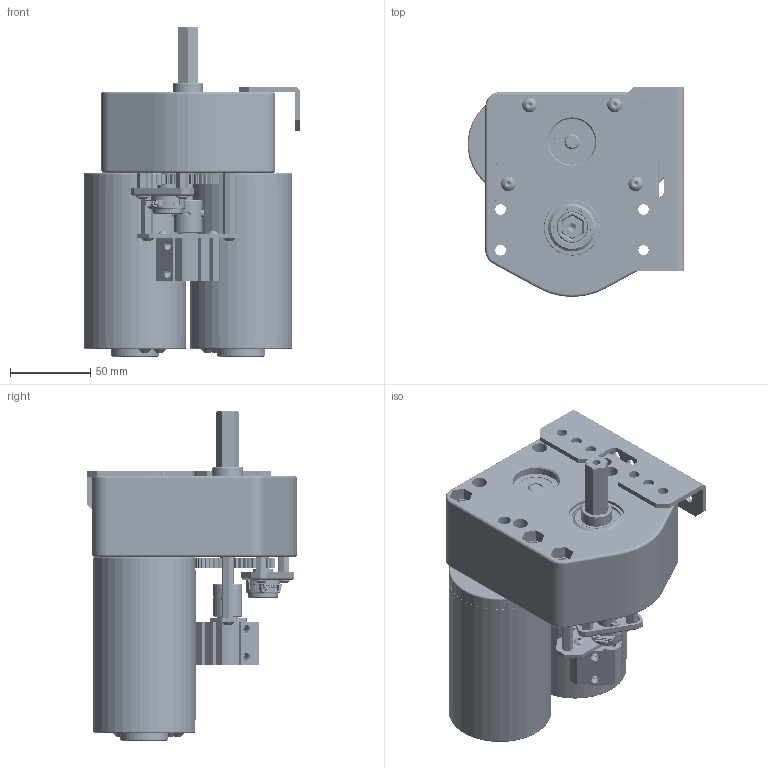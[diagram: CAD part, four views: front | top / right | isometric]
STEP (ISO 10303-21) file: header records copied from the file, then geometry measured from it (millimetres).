
FILE_DESCRIPTION (( 'STEP AP203' ), '1' );
FILE_NAME ('217-2428 wUS Digital Encoder.20130115.STEP', '2013-01-14T22:57:14', ( '' ), ( '' ), 'SwSTEP 2.0', 'SolidWorks 2012', '' );
FILE_SCHEMA (( 'CONFIG_CONTROL_DESIGN' ));
Length unit declared in the file: inch
Products named in the file (52): 217-2428 wUS Digital Encoder.20130115; 217-2428-200 Rev1; 91251A107_91251A107; 217-2428-032 Rev1; E4P-X-250-X-D-D-D-X; 217-2000; 217-2792-001 Rev1; 217-2428-007 Rev1; 217-2790-001 Rev2; 217-2790-004 Rev2; 217-2790-003 Rev2 ; 217-2790-002 Rev2; 217-2713-101 Rev1; 217-2713-001_60t Steel; 217-2709-101 Rev1; 217-2709-001_44t Steel; 217-2428-022 Rev1; 217-2428-028 Rev1_97633A250; 217-2428-008 Rev1; 217-2428-029 Rev1; 217-2428-021 Rev1; 217-2428-004 Rev3; Nylock Nut_NNY2520-ZC; 217-2707-001_40t; 217-2703-001; 217-2428-002 Rev2; 217-2428-001 Rev1; 217-2761-001 rev1; 217-2614-001_12t; SBS1_SBS1032-0500ZC; 217-2428-024 Rev2; SCREW-832-0250; 217-2428-009 Rev1; 217-2428-018 Rev2; 217-2428-016 Rev2_Spur01; 217-2428-031 Rev1; 217-2428-017 Rev2; PINL-0250-1125-S; SBS1_SBS-0632-0250; SCREW-832-0375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
Assembly tree (80 placements, depth 4):
  217-2428 wUS Digital Encoder.20130115
    217-2733  x2
    217-2731
    217-2789
    217-2778-001 Rev2_NCQ8A075-050M
      217-2778-NCQ8A075-050M_NCQ8 Tube_075A
      217-2778-NCQ8A075-050M_NCQ8 Rod_075M
      217-2778-NCQ8A075-050M_Snap Ring_075
      217-2778-NCQ8A075-050M_1032_Nut_90545A111
    217-2428-027 Rev1_97414A630  x2
    217-2788_57155K375
    217-2428-012 Rev2
    217-2428-005 Rev1  x2
    SCREW-832-0375  x6
    SBS1_SBS-0632-0250  x2
    217-2428-031 Rev1
      PINL-0250-1125-S
      217-2788_57155K375  x2
      217-2428-017 Rev2
    217-2428-016 Rev2_Spur01
    217-2428-018 Rev2
    217-2428-009 Rev1  x2
    SCREW-832-0250  x2
    217-2428-024 Rev2
    SBS1_SBS1032-0500ZC  x4
    217-2614-001_12t  x2
    217-2761-001 rev1  x2
    217-2428-001 Rev1
    217-2428-002 Rev2
    217-2703-001
    217-2707-001_40t
    Nylock Nut_NNY2520-ZC  x2
    217-2428-004 Rev3
    217-2428-021 Rev1
    217-2428-029 Rev1
    217-2792-001 Rev1
      217-2428-008 Rev1
      217-2428-028 Rev1_97633A250
      217-2709-101 Rev1
        217-2428-022 Rev1
        217-2709-001_44t Steel
      217-2713-101 Rev1
        217-2713-001_60t Steel
        217-2428-022 Rev1
      217-2790-001 Rev2
        217-2790-002 Rev2
        217-2790-003 Rev2 
        217-2790-004 Rev2
      217-2428-007 Rev1  x6
    217-2000  x2
    E4P-X-250-X-D-D-D-X
    217-2428-200 Rev1
      217-2428-032 Rev1  x2
      217-2778-NCQ8A075-050M_1032_Nut_90545A111
      91251A107_91251A107  x2
Bounding box: 134.79 x 130.69 x 205.51 mm (x, y, z)
Volume: 1089482.9 mm3; surface area: 333641.6 mm2
Topology: 130 solids, 130 shells, 5081 faces, 12935 edges, 8322 vertices
Faces by surface type: plane 2024, cylinder 1755, cone 491, bspline 428, torus 271, sphere 112
Entity records: 215447 total; most frequent: CARTESIAN_POINT 105138, ORIENTED_EDGE 21904, DIRECTION 21506, EDGE_CURVE 10952, AXIS2_PLACEMENT_3D 7976, VERTEX_POINT 7096, LINE 5554, VECTOR 5554
